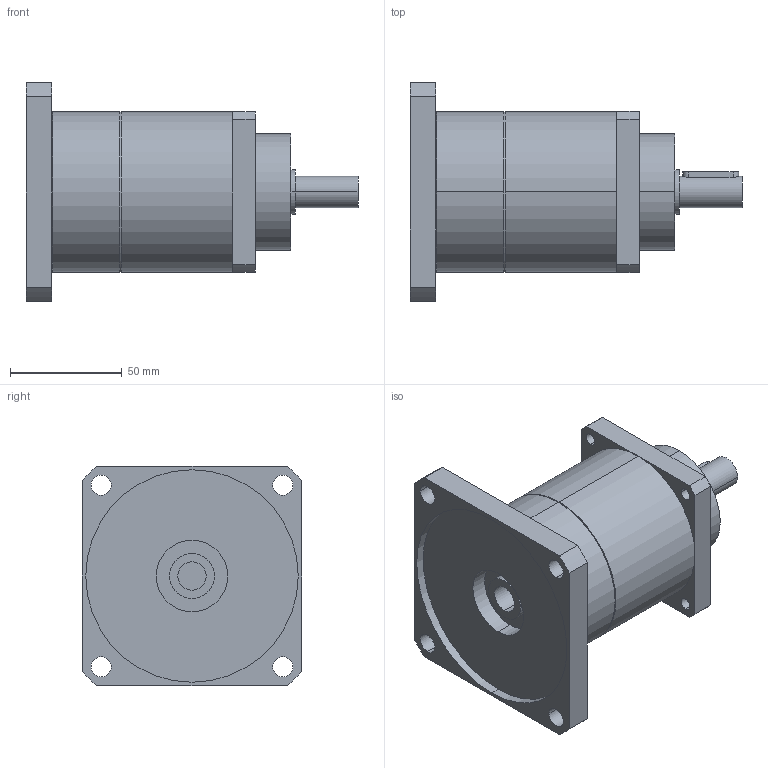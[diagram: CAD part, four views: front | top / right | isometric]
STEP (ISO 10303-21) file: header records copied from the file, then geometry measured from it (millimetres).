
FILE_DESCRIPTION(('CoCreate Modeling STEP Export'),'2;1');
FILE_NAME('GPT75_ig-9-12-16-20-25-28-35-40-50-70-100_14_B5T_12.7_P08.stp','2014-08-27T13:35:09',(''),(''),'CoCreate Modeling STEP processor for AP214 (Solid Model)','CoCreate Modeling 16.00C 25-Feb-2009 (C) Parametric Technology GmbH','');
FILE_SCHEMA(('AUTOMOTIVE_DESIGN { 1 0 10303 214 1 1 1 1 }'));
Length unit declared in the file: millimetre
Products named in the file (2): GPT75_ig-9-12-16-20-25-28-35-40-50-70-100_14_B5T_12.7_P08
Assembly tree (1 placements, depth 2):
  GPT75_ig-9-12-16-20-25-28-35-40-50-70-100_14_B5T_12.7_P08
    GPT75_ig-9-12-16-20-25-28-35-40-50-70-100_14_B5T_12.7_P08
Bounding box: 148.5 x 98 x 98 mm (x, y, z)
Volume: 488639.6 mm3; surface area: 56036.8 mm2
Topology: 1 solids, 1 shells, 77 faces, 189 edges, 124 vertices
Faces by surface type: cylinder 46, plane 27, cone 4
Entity records: 2459 total; most frequent: CARTESIAN_POINT 714, ORIENTED_EDGE 378, DIRECTION 320, EDGE_CURVE 189, VERTEX_POINT 124, AXIS2_PLACEMENT_3D 118, EDGE_LOOP 103, VECTOR 84
